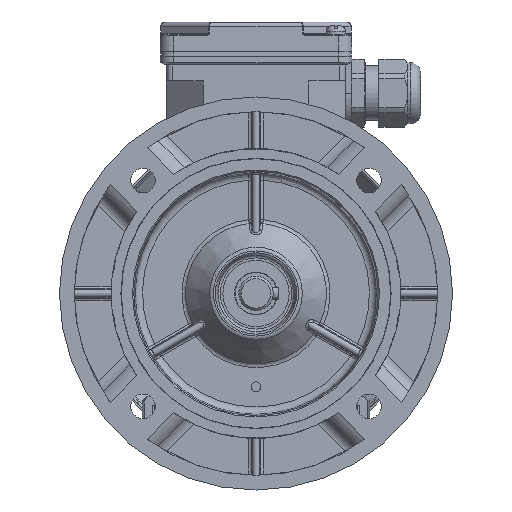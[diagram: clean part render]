
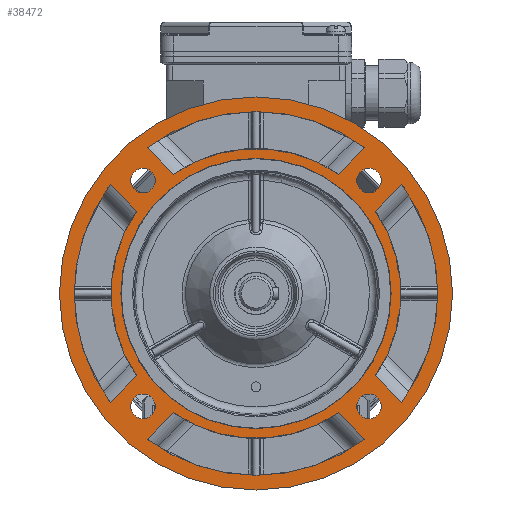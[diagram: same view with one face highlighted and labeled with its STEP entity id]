
A CAD part, front view. The second image highlights one B-rep face of the part: STEP entity #38472.
In plain terms, the highlighted planar face has unit normal (0, -1, 0).
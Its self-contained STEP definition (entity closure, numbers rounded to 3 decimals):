
#1370=LINE('',#64255,#3845);
#1371=LINE('',#64269,#3846);
#1372=LINE('',#64278,#3847);
#1373=LINE('',#64297,#3848);
#1374=LINE('',#64306,#3849);
#1375=LINE('',#64320,#3850);
#1376=LINE('',#64346,#3851);
#1377=LINE('',#64355,#3852);
#3845=VECTOR('',#47598,1000.);
#3846=VECTOR('',#47605,1000.);
#3847=VECTOR('',#47612,1000.);
#3848=VECTOR('',#47619,1000.);
#3849=VECTOR('',#47626,1000.);
#3850=VECTOR('',#47633,1000.);
#3851=VECTOR('',#47644,1000.);
#3852=VECTOR('',#47651,1000.);
#12924=ORIENTED_EDGE('',*,*,#22077,.F.);
#12925=ORIENTED_EDGE('',*,*,#22076,.F.);
#12926=ORIENTED_EDGE('',*,*,#22075,.F.);
#12927=ORIENTED_EDGE('',*,*,#22074,.F.);
#12928=ORIENTED_EDGE('',*,*,#22073,.F.);
#12929=ORIENTED_EDGE('',*,*,#22071,.F.);
#12930=ORIENTED_EDGE('',*,*,#22070,.T.);
#12931=ORIENTED_EDGE('',*,*,#22067,.T.);
#12932=ORIENTED_EDGE('',*,*,#22065,.F.);
#12933=ORIENTED_EDGE('',*,*,#22063,.T.);
#12934=ORIENTED_EDGE('',*,*,#22061,.T.);
#12935=ORIENTED_EDGE('',*,*,#22059,.F.);
#12936=ORIENTED_EDGE('',*,*,#22576,.F.);
#12937=ORIENTED_EDGE('',*,*,#22057,.F.);
#12938=ORIENTED_EDGE('',*,*,#22056,.T.);
#12939=ORIENTED_EDGE('',*,*,#22053,.T.);
#12940=ORIENTED_EDGE('',*,*,#22051,.F.);
#12941=ORIENTED_EDGE('',*,*,#22049,.F.);
#12942=ORIENTED_EDGE('',*,*,#22048,.T.);
#12943=ORIENTED_EDGE('',*,*,#22045,.T.);
#12944=ORIENTED_EDGE('',*,*,#22044,.F.);
#12945=ORIENTED_EDGE('',*,*,#22041,.T.);
#22041=EDGE_CURVE('',#27272,#27272,#30160,.T.);
#22044=EDGE_CURVE('',#27274,#27273,#1370,.T.);
#22045=EDGE_CURVE('',#27275,#27273,#30161,.T.);
#22048=EDGE_CURVE('',#27276,#27275,#1371,.T.);
#22049=EDGE_CURVE('',#27276,#27274,#30162,.T.);
#22051=EDGE_CURVE('',#27277,#27278,#1372,.T.);
#22053=EDGE_CURVE('',#27279,#27278,#30163,.T.);
#22056=EDGE_CURVE('',#27280,#27279,#1373,.T.);
#22057=EDGE_CURVE('',#27280,#27277,#30164,.T.);
#22059=EDGE_CURVE('',#27281,#27282,#1374,.T.);
#22061=EDGE_CURVE('',#27283,#27282,#30165,.T.);
#22063=EDGE_CURVE('',#27284,#27283,#1375,.T.);
#22065=EDGE_CURVE('',#27284,#27281,#30166,.T.);
#22067=EDGE_CURVE('',#27286,#27285,#30167,.T.);
#22070=EDGE_CURVE('',#27287,#27286,#1376,.T.);
#22071=EDGE_CURVE('',#27287,#27288,#30168,.T.);
#22073=EDGE_CURVE('',#27288,#27285,#1377,.T.);
#22074=EDGE_CURVE('',#27289,#27289,#30169,.T.);
#22075=EDGE_CURVE('',#27290,#27290,#30170,.T.);
#22076=EDGE_CURVE('',#27291,#27291,#30171,.T.);
#22077=EDGE_CURVE('',#27292,#27292,#30172,.T.);
#22576=EDGE_CURVE('',#27791,#27791,#30423,.T.);
#27272=VERTEX_POINT('',#64243);
#27273=VERTEX_POINT('',#64249);
#27274=VERTEX_POINT('',#64254);
#27275=VERTEX_POINT('',#64258);
#27276=VERTEX_POINT('',#64268);
#27277=VERTEX_POINT('',#64277);
#27278=VERTEX_POINT('',#64279);
#27279=VERTEX_POINT('',#64286);
#27280=VERTEX_POINT('',#64296);
#27281=VERTEX_POINT('',#64305);
#27282=VERTEX_POINT('',#64307);
#27283=VERTEX_POINT('',#64314);
#27284=VERTEX_POINT('',#64321);
#27285=VERTEX_POINT('',#64333);
#27286=VERTEX_POINT('',#64335);
#27287=VERTEX_POINT('',#64345);
#27288=VERTEX_POINT('',#64349);
#27289=VERTEX_POINT('',#64358);
#27290=VERTEX_POINT('',#64361);
#27291=VERTEX_POINT('',#64364);
#27292=VERTEX_POINT('',#64367);
#27791=VERTEX_POINT('',#65376);
#30160=CIRCLE('',#41316,79.992);
#30161=CIRCLE('',#41319,58.994);
#30162=CIRCLE('',#41322,73.993);
#30163=CIRCLE('',#41325,58.994);
#30164=CIRCLE('',#41328,73.993);
#30165=CIRCLE('',#41331,58.994);
#30166=CIRCLE('',#41334,73.993);
#30167=CIRCLE('',#41336,58.994);
#30168=CIRCLE('',#41339,73.993);
#30169=CIRCLE('',#41342,5.);
#30170=CIRCLE('',#41344,5.);
#30171=CIRCLE('',#41346,5.);
#30172=CIRCLE('',#41348,5.);
#30423=CIRCLE('',#41610,54.995);
#32472=EDGE_LOOP('',(#12924));
#32473=EDGE_LOOP('',(#12925));
#32474=EDGE_LOOP('',(#12926));
#32475=EDGE_LOOP('',(#12927));
#32476=EDGE_LOOP('',(#12928,#12929,#12930,#12931));
#32477=EDGE_LOOP('',(#12932,#12933,#12934,#12935));
#32478=EDGE_LOOP('',(#12936));
#32479=EDGE_LOOP('',(#12937,#12938,#12939,#12940));
#32480=EDGE_LOOP('',(#12941,#12942,#12943,#12944));
#32481=EDGE_LOOP('',(#12945));
#35115=FACE_BOUND('',#32472,.T.);
#35116=FACE_BOUND('',#32473,.T.);
#35117=FACE_BOUND('',#32474,.T.);
#35118=FACE_BOUND('',#32475,.T.);
#35119=FACE_BOUND('',#32476,.T.);
#35120=FACE_BOUND('',#32477,.T.);
#35121=FACE_BOUND('',#32478,.T.);
#35122=FACE_BOUND('',#32479,.T.);
#35123=FACE_BOUND('',#32480,.T.);
#35124=FACE_BOUND('',#32481,.T.);
#37168=PLANE('',#41609);
#38472=ADVANCED_FACE('',(#35115,#35116,#35117,#35118,#35119,#35120,#35121,
#35122,#35123,#35124),#37168,.F.);
#41316=AXIS2_PLACEMENT_3D('',#64242,#47594,#47595);
#41319=AXIS2_PLACEMENT_3D('',#64257,#47601,#47602);
#41322=AXIS2_PLACEMENT_3D('',#64271,#47608,#47609);
#41325=AXIS2_PLACEMENT_3D('',#64285,#47615,#47616);
#41328=AXIS2_PLACEMENT_3D('',#64299,#47622,#47623);
#41331=AXIS2_PLACEMENT_3D('',#64313,#47629,#47630);
#41334=AXIS2_PLACEMENT_3D('',#64327,#47636,#47637);
#41336=AXIS2_PLACEMENT_3D('',#64334,#47640,#47641);
#41339=AXIS2_PLACEMENT_3D('',#64348,#47647,#47648);
#41342=AXIS2_PLACEMENT_3D('',#64357,#47654,#47655);
#41344=AXIS2_PLACEMENT_3D('',#64360,#47658,#47659);
#41346=AXIS2_PLACEMENT_3D('',#64363,#47662,#47663);
#41348=AXIS2_PLACEMENT_3D('',#64366,#47666,#47667);
#41609=AXIS2_PLACEMENT_3D('',#65374,#48436,#48437);
#41610=AXIS2_PLACEMENT_3D('',#65375,#48438,#48439);
#47594=DIRECTION('',(0.,-1.,0.));
#47595=DIRECTION('',(0.,0.,-1.));
#47598=DIRECTION('',(-0.707,0.,-0.707));
#47601=DIRECTION('',(0.,-1.,0.));
#47602=DIRECTION('',(0.,0.,-1.));
#47605=DIRECTION('',(-0.707,0.,0.707));
#47608=DIRECTION('',(0.,-1.,0.));
#47609=DIRECTION('',(0.,0.,-1.));
#47612=DIRECTION('',(-0.707,0.,0.707));
#47615=DIRECTION('',(0.,-1.,0.));
#47616=DIRECTION('',(0.,0.,-1.));
#47619=DIRECTION('',(0.707,0.,0.707));
#47622=DIRECTION('',(0.,-1.,0.));
#47623=DIRECTION('',(0.,0.,-1.));
#47626=DIRECTION('',(0.707,0.,0.707));
#47629=DIRECTION('',(0.,-1.,0.));
#47630=DIRECTION('',(0.,0.,-1.));
#47633=DIRECTION('',(0.707,0.,-0.707));
#47636=DIRECTION('',(0.,-1.,0.));
#47637=DIRECTION('',(0.,0.,-1.));
#47640=DIRECTION('',(0.,-1.,0.));
#47641=DIRECTION('',(0.,0.,-1.));
#47644=DIRECTION('',(-0.707,0.,-0.707));
#47647=DIRECTION('',(0.,-1.,0.));
#47648=DIRECTION('',(0.,0.,-1.));
#47651=DIRECTION('',(0.707,0.,-0.707));
#47654=DIRECTION('',(0.,-1.,0.));
#47655=DIRECTION('',(1.,0.,0.));
#47658=DIRECTION('',(0.,-1.,0.));
#47659=DIRECTION('',(1.,0.,0.));
#47662=DIRECTION('',(0.,-1.,0.));
#47663=DIRECTION('',(1.,0.,0.));
#47666=DIRECTION('',(0.,-1.,0.));
#47667=DIRECTION('',(1.,0.,0.));
#48436=DIRECTION('',(0.,1.,0.));
#48437=DIRECTION('',(0.,0.,1.));
#48438=DIRECTION('',(0.,-1.,0.));
#48439=DIRECTION('',(0.,0.,-1.));
#64242=CARTESIAN_POINT('',(0.,-40.493,0.001));
#64243=CARTESIAN_POINT('',(0.,-40.493,-79.991));
#64249=CARTESIAN_POINT('',(48.544,-40.493,33.524));
#64254=CARTESIAN_POINT('',(59.289,-40.493,44.27));
#64255=CARTESIAN_POINT('',(59.831,-40.493,44.811));
#64257=CARTESIAN_POINT('',(0.,-40.493,0.001));
#64258=CARTESIAN_POINT('',(48.544,-40.493,-33.522));
#64268=CARTESIAN_POINT('',(59.289,-40.493,-44.267));
#64269=CARTESIAN_POINT('',(59.831,-40.493,-44.809));
#64271=CARTESIAN_POINT('',(0.,-40.493,0.001));
#64277=CARTESIAN_POINT('',(44.268,-40.493,-59.288));
#64278=CARTESIAN_POINT('',(44.81,-40.493,-59.83));
#64279=CARTESIAN_POINT('',(33.523,-40.493,-48.543));
#64285=CARTESIAN_POINT('',(0.,-40.493,0.001));
#64286=CARTESIAN_POINT('',(-33.523,-40.493,-48.543));
#64296=CARTESIAN_POINT('',(-44.268,-40.493,-59.288));
#64297=CARTESIAN_POINT('',(-44.81,-40.493,-59.83));
#64299=CARTESIAN_POINT('',(0.,-40.493,0.001));
#64305=CARTESIAN_POINT('',(-59.289,-40.493,-44.267));
#64306=CARTESIAN_POINT('',(-59.831,-40.493,-44.809));
#64307=CARTESIAN_POINT('',(-48.544,-40.493,-33.522));
#64313=CARTESIAN_POINT('',(0.,-40.493,0.001));
#64314=CARTESIAN_POINT('',(-48.544,-40.493,33.524));
#64320=CARTESIAN_POINT('',(-59.831,-40.493,44.811));
#64321=CARTESIAN_POINT('',(-59.289,-40.493,44.27));
#64327=CARTESIAN_POINT('',(0.,-40.493,0.001));
#64333=CARTESIAN_POINT('',(-33.523,-40.493,48.545));
#64334=CARTESIAN_POINT('',(0.,-40.493,0.001));
#64335=CARTESIAN_POINT('',(33.523,-40.493,48.545));
#64345=CARTESIAN_POINT('',(44.268,-40.493,59.291));
#64346=CARTESIAN_POINT('',(44.81,-40.493,59.832));
#64348=CARTESIAN_POINT('',(0.,-40.493,0.001));
#64349=CARTESIAN_POINT('',(-44.268,-40.493,59.291));
#64355=CARTESIAN_POINT('',(-44.81,-40.493,59.832));
#64357=CARTESIAN_POINT('',(-45.957,-40.493,45.959));
#64358=CARTESIAN_POINT('',(-40.958,-40.493,45.959));
#64360=CARTESIAN_POINT('',(-45.957,-40.493,-45.956));
#64361=CARTESIAN_POINT('',(-40.958,-40.493,-45.956));
#64363=CARTESIAN_POINT('',(45.958,-40.493,-45.956));
#64364=CARTESIAN_POINT('',(50.957,-40.493,-45.956));
#64366=CARTESIAN_POINT('',(45.958,-40.493,45.959));
#64367=CARTESIAN_POINT('',(50.957,-40.493,45.959));
#65374=CARTESIAN_POINT('',(0.,-40.493,54.996));
#65375=CARTESIAN_POINT('',(0.,-40.493,0.001));
#65376=CARTESIAN_POINT('',(0.,-40.493,-54.993));
